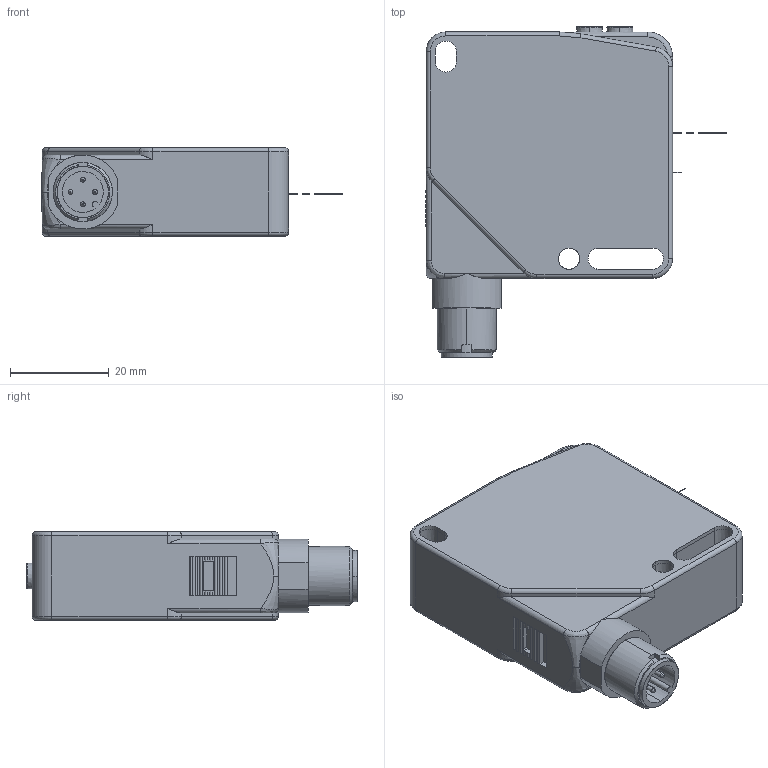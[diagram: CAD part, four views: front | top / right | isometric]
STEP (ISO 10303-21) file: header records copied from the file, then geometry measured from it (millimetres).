
FILE_DESCRIPTION((''),'2;1');
FILE_NAME('2017291','2015-03-19T',('rink'),(''),'PRO/ENGINEER BY PARAMETRIC TECHNOLOGY CORPORATION, 2014310','PRO/ENGINEER BY PARAMETRIC TECHNOLOGY CORPORATION, 2014310','');
FILE_SCHEMA(('AUTOMOTIVE_DESIGN { 1 0 10303 214 1 1 1 1 }'));
Length unit declared in the file: millimetre
Products named in the file (1): 2017291
Bounding box: 61.18 x 67.1 x 18 mm (x, y, z)
Surface area: 11132.2 mm2
Topology: 2 solids, 28 shells, 520 faces, 1390 edges, 864 vertices
Faces by surface type: plane 203, cylinder 164, bspline 56, cone 46, torus 40, sphere 8, extrusion 3
Entity records: 36581 total; most frequent: CARTESIAN_POINT 17162, ORIENTED_EDGE 2544, DIRECTION 2506, PRESENTATION_STYLE_ASSIGNMENT 1776, STYLED_ITEM 1427, CURVE_STYLE 1399, EDGE_CURVE 1382, AXIS2_PLACEMENT_3D 955
